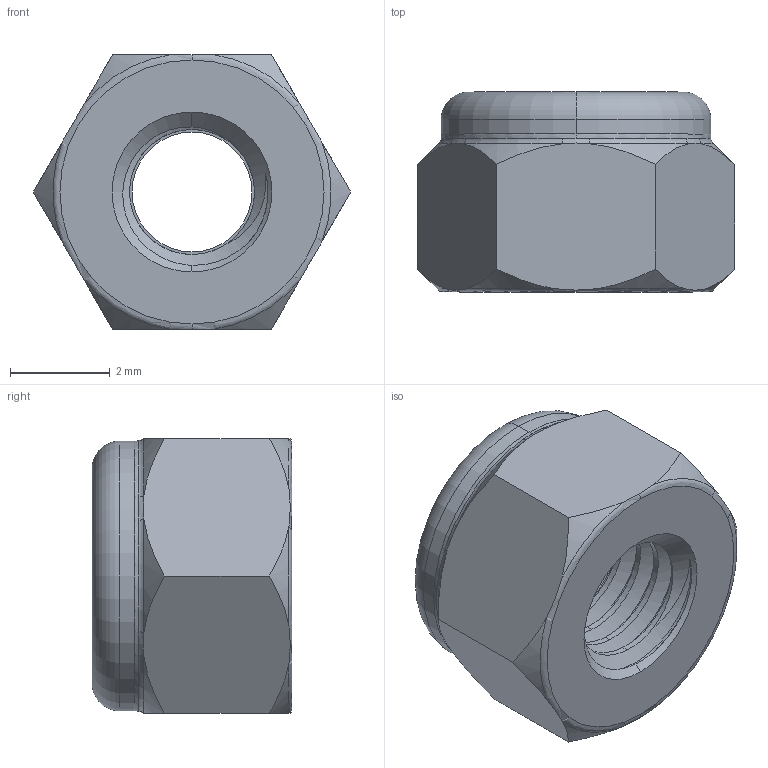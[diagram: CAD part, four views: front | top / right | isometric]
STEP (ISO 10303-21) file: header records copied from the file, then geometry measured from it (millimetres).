
FILE_DESCRIPTION (( 'STEP AP203' ), '1' );
FILE_NAME ('TANK-304-M3.STEP', '2026-08-25T01:57:26', ( '' ), ( '' ), 'SwSTEP 2.0', 'SolidWorks 2020', '' );
FILE_SCHEMA (( 'CONFIG_CONTROL_DESIGN' ));
Length unit declared in the file: millimetre
Products named in the file (1): TANK-304-M3
Bounding box: 6.35 x 4 x 5.5 mm (x, y, z)
Volume: 73.2 mm3; surface area: 219.8 mm2
Topology: 2 solids, 2 shells, 73 faces, 182 edges, 113 vertices
Faces by surface type: cylinder 19, cone 19, torus 16, plane 10, bspline 9
Entity records: 3711 total; most frequent: CARTESIAN_POINT 2049, ORIENTED_EDGE 364, DIRECTION 303, EDGE_CURVE 182, AXIS2_PLACEMENT_3D 136, VERTEX_POINT 113, EDGE_LOOP 77, ADVANCED_FACE 73
